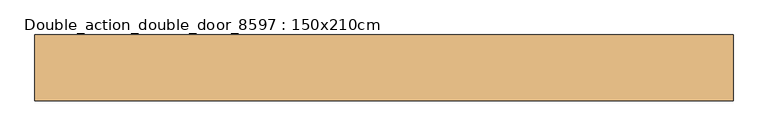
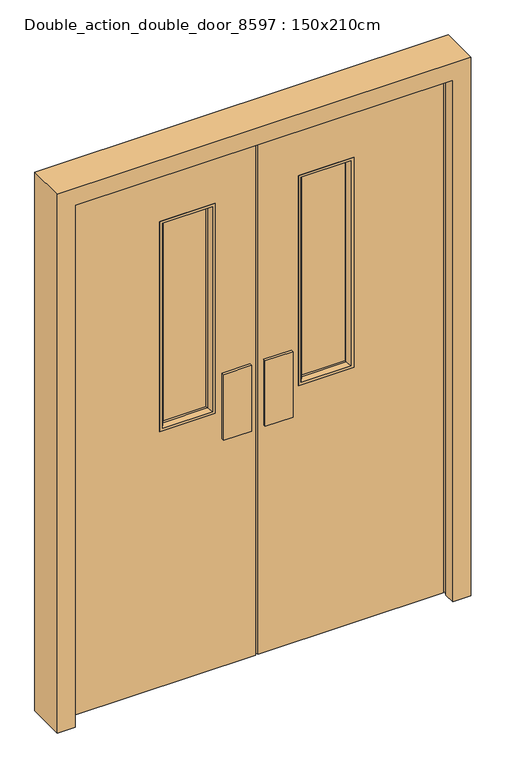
"""IFC4 building model written with IfcOpenShell, lengths in millimetres: door geometry, Double_action_double_door_8597 : 150x210cm."""

import ifcopenshell
import ifcopenshell.guid

model = None  # the IFC model being written
_history = None  # IfcOwnerHistory: only IFC2X3 demands one
_inside = {}  # id of a spatial element -> (the spatial element, [elements in it])
_under = {}  # id of a project, library or spatial element -> (it, [spatial elements below it])
_declared = {}  # id of a project -> (the project, [libraries it declares])
_typed = {}  # id of a type object -> (the type object, [elements of that type])
_made_of = {}  # id of a material, layer set ... -> (it, [elements and type objects made of it])


def new_model(schema):
    """Start an empty IFC model of exactly this schema.

    Asked for "IFC4X3", IfcOpenShell would pick the latest addendum, in which some entities
    have other attributes; the version numbers below select the first issue.
    IFC2X3 requires an IfcOwnerHistory on every rooted entity: one is made here for all.
    """
    global model, _history
    if schema == "IFC4X3":
        model = ifcopenshell.file(schema_version=(4, 3, 0, 0))
    else:
        model = ifcopenshell.file(schema=schema)
    _inside.clear()
    _under.clear()
    _declared.clear()
    _typed.clear()
    _made_of.clear()
    _history = None
    if model.schema == "IFC2X3":
        org = make("IfcOrganization", Name="unknown")
        user = make(
            "IfcPersonAndOrganization",
            ThePerson=make("IfcPerson", FamilyName="unknown"),
            TheOrganization=org,
        )
        app = make(
            "IfcApplication",
            ApplicationDeveloper=org,
            Version="unknown",
            ApplicationFullName="unknown",
            ApplicationIdentifier="unknown",
        )
        _history = make(
            "IfcOwnerHistory",
            OwningUser=user,
            OwningApplication=app,
            ChangeAction="ADDED",
            CreationDate=0,
        )
    return model


def make(cls, **values):
    """One entity of the class cls with the attributes given. An attribute that is None is left unset."""
    return model.create_entity(
        cls, **{name: value for name, value in values.items() if value is not None}
    )


def rooted(cls, **values):
    """An entity with a GlobalId (a new one), such as an element, a storey or a relation."""
    return make(cls, GlobalId=ifcopenshell.guid.new(), OwnerHistory=_history, **values)


def si_unit(unit_type, name, prefix=None):
    """IfcSIUnit, for example si_unit("LENGTHUNIT", "METRE", prefix="MILLI")."""
    return make("IfcSIUnit", UnitType=unit_type, Prefix=prefix, Name=name)


def assignment(units):
    """IfcUnitAssignment: the units of a project."""
    return None if units is None else make("IfcUnitAssignment", Units=units)


def point(xyz):
    """IfcCartesianPoint."""
    return None if xyz is None else make("IfcCartesianPoint", Coordinates=xyz)


def direction(xyz):
    """IfcDirection."""
    return None if xyz is None else make("IfcDirection", DirectionRatios=xyz)


def frame(location, z_axis=None, x_axis=None):
    """IfcAxis2Placement3D, a coordinate frame: its origin and axes. An axis left out is left unset."""
    return make(
        "IfcAxis2Placement3D",
        Location=point(location),
        Axis=direction(z_axis),
        RefDirection=direction(x_axis),
    )


def origin():
    """The frame at (0, 0, 0) with its axes left unset."""
    return frame((0.0, 0.0, 0.0))


def place(relative_to, where):
    """IfcLocalPlacement: puts the frame where relative to a parent placement (None: the world)."""
    return make(
        "IfcLocalPlacement", PlacementRelTo=relative_to, RelativePlacement=where
    )


def context(
    kind, dimensions, precision=None, world=None, true_north=None, identifier=None
):
    """IfcGeometricRepresentationContext, for example the 3D "Model" context."""
    return make(
        "IfcGeometricRepresentationContext",
        ContextIdentifier=identifier,
        ContextType=kind,
        CoordinateSpaceDimension=dimensions,
        Precision=precision,
        WorldCoordinateSystem=world,
        TrueNorth=true_north,
    )


def project(units=None, contexts=None):
    """IfcProject with its units and contexts."""
    return rooted(
        "IfcProject",
        Name="project",
        RepresentationContexts=contexts,
        UnitsInContext=assignment(units),
    )


def spatial(cls, under=None, at=None, **own):
    """A site, building, storey or space (cls), placed at a placement, below another one or the project."""
    s = rooted(cls, ObjectPlacement=at, **own)
    if under is not None:
        _under.setdefault(under.id(), (under, []))[1].append(s)
    return s


def polyline(points):
    """IfcPolyline through the points."""
    return make("IfcPolyline", Points=[point(p) for p in points])


def circle_curve(where, radius):
    """IfcCircle in the frame where."""
    return make("IfcCircle", Position=where, Radius=radius)


def outline(outer, holes=None, kind="AREA"):
    """IfcArbitraryClosedProfileDef: a profile drawn as a closed curve; with holes, ...WithVoids."""
    if holes is None:
        return make("IfcArbitraryClosedProfileDef", ProfileType=kind, OuterCurve=outer)
    return make(
        "IfcArbitraryProfileDefWithVoids",
        ProfileType=kind,
        OuterCurve=outer,
        InnerCurves=holes,
    )


def extrude(swept, where, along, depth):
    """IfcExtrudedAreaSolid: the profile swept, set in the frame where, extruded along a direction by depth."""
    return make(
        "IfcExtrudedAreaSolid",
        SweptArea=swept,
        Position=where,
        ExtrudedDirection=direction(along),
        Depth=depth,
    )


def faces_of(points, faces, orient=None, outer=None):
    """IfcFace entities. A face is a list of loops; a loop is a list of indices into points, from 0.

    orient and outer hold one flag for each loop. By default every Orientation is true, the
    first loop of a face is its IfcFaceOuterBound and the others are IfcFaceBound.
    """
    made = []
    for i, loops in enumerate(faces):
        bounds = []
        for j, loop in enumerate(loops):
            is_outer = j == 0 if outer is None else outer[i][j]
            bounds.append(
                make(
                    "IfcFaceOuterBound" if is_outer else "IfcFaceBound",
                    Bound=make("IfcPolyLoop", Polygon=[points[k] for k in loop]),
                    Orientation=True if orient is None else orient[i][j],
                )
            )
        made.append(make("IfcFace", Bounds=bounds))
    return made


def faceted_brep(points, faces, orient=None, outer=None, voids=None):
    """IfcFacetedBrep: a solid bounded by flat faces; with voids (closed shells), ...WithVoids."""
    shared = [point(p) for p in points]
    hull = make("IfcClosedShell", CfsFaces=faces_of(shared, faces, orient, outer))
    if voids is None:
        return make("IfcFacetedBrep", Outer=hull)
    return make(
        "IfcFacetedBrepWithVoids",
        Outer=hull,
        Voids=[
            make(cls, CfsFaces=faces_of(shared, fs, o, b)) for cls, fs, o, b in voids
        ],
    )


def shape(context_of_items, identifier, shape_type, items):
    """IfcShapeRepresentation: the items that make up one representation, for example the "Body"."""
    return make(
        "IfcShapeRepresentation",
        ContextOfItems=context_of_items,
        RepresentationIdentifier=identifier,
        RepresentationType=shape_type,
        Items=items,
    )


def source(mapping_origin, context_of_items, identifier, shape_type, items):
    """IfcRepresentationMap: a shape defined once, which mapped items show again and again."""
    return make(
        "IfcRepresentationMap",
        MappingOrigin=mapping_origin,
        MappedRepresentation=shape(context_of_items, identifier, shape_type, items),
    )


def transform(
    local_origin,
    x_axis=None,
    y_axis=None,
    z_axis=None,
    scale=None,
    scale2=None,
    scale3=None,
    uniform=True,
):
    """IfcCartesianTransformationOperator3D, or its non-uniform kind. x_axis, y_axis, z_axis: its Axis1, 2, 3."""
    if uniform:
        return make(
            "IfcCartesianTransformationOperator3D",
            Axis1=direction(x_axis),
            Axis2=direction(y_axis),
            LocalOrigin=point(local_origin),
            Scale=scale,
            Axis3=direction(z_axis),
        )
    return make(
        "IfcCartesianTransformationOperator3DnonUniform",
        Axis1=direction(x_axis),
        Axis2=direction(y_axis),
        LocalOrigin=point(local_origin),
        Scale=scale,
        Axis3=direction(z_axis),
        Scale2=scale2,
        Scale3=scale3,
    )


def mapped(mapping_source, mapping_target):
    """IfcMappedItem: shows the shape of a source again, moved by a transform."""
    return make(
        "IfcMappedItem", MappingSource=mapping_source, MappingTarget=mapping_target
    )


def made_of(thing, what):
    """Note that an element or type object is made of a material, layer set ...; save() writes the relation."""
    if what is not None:
        _made_of.setdefault(what.id(), (what, []))[1].append(thing)
    return thing


def element(
    cls,
    number,
    at=None,
    inside=None,
    cuts=None,
    type_object=None,
    material=None,
    context=None,
    identifier="Body",
    shape_type=None,
    held_by="IfcProductDefinitionShape",
    body=None,
    shapes=None,
    **own,
):
    """One element of the class cls, such as IfcWall. Its Tag is "e" and its number.

    at: its placement. inside: the storey or other place that contains it. cuts: it is an
    opening in that element (IfcRelVoidsElement). A single representation is given by context,
    identifier, shape_type and body (its items); several are given by shapes. held_by: the class
    of the entity that holds the representations. save() writes the other relations.
    """
    e = rooted(cls, Tag="e%d" % number, ObjectPlacement=at, **own)
    if body is not None:
        shapes = [shape(context, identifier, shape_type, body)]
    if shapes is not None:
        e.Representation = make(held_by, Representations=shapes)
    if inside is not None:
        _inside.setdefault(inside.id(), (inside, []))[1].append(e)
    if cuts is not None:
        rooted(
            "IfcRelVoidsElement", RelatingBuildingElement=cuts, RelatedOpeningElement=e
        )
    if type_object is not None:
        _typed.setdefault(type_object.id(), (type_object, []))[1].append(e)
    return made_of(e, material)


def aggregate(whole, parts):
    """IfcRelAggregates: a whole, such as a stair, and the parts it consists of."""
    return rooted("IfcRelAggregates", RelatingObject=whole, RelatedObjects=parts)


def save(model, path):
    """Write the relations noted so far, then the file.

    IfcRelAggregates (storeys below a building ...), IfcRelContainedInSpatialStructure (elements
    in a storey), IfcRelDefinesByType, IfcRelAssociatesMaterial and IfcRelDeclares: one each for
    every whole, place, type object, material and project.
    """
    for whole, parts in _under.values():
        aggregate(whole, parts)
    for where, things in _inside.values():
        rooted(
            "IfcRelContainedInSpatialStructure",
            RelatedElements=things,
            RelatingStructure=where,
        )
    for kind, things in _typed.values():
        rooted("IfcRelDefinesByType", RelatedObjects=things, RelatingType=kind)
    for what, things in _made_of.values():
        rooted("IfcRelAssociatesMaterial", RelatedObjects=things, RelatingMaterial=what)
    for by, libraries in _declared.values():
        rooted("IfcRelDeclares", RelatingContext=by, RelatedDefinitions=libraries)
    model.write(path)


def plane_surface(at):
    """IfcPlane: the flat surface through the origin of the frame at, square to its z axis."""
    return make("IfcPlane", Position=at)


def cylinder_surface(at, radius):
    """IfcCylindricalSurface: all points at the distance radius from the z axis of the frame at."""
    return make("IfcCylindricalSurface", Position=at, Radius=radius)


def advanced_brep(points, edges, surfaces, faces):
    """IfcAdvancedBrep: a solid bounded by faces that lie on surfaces and meet in shared edges.

    An edge is (start, end): straight between two places in points (the first is 0);
    or (start, end, curve); or (start, end, curve, False) where it runs against its curve.
    A face is (place in surfaces, loops), or (place, loops, False) where it looks against
    its surface's normal. A loop lists edges by number (the first is 1), with a minus sign
    where the edge is run from its end to its start. The first loop is the outer one.
    """
    corners = [point(p) for p in points]
    vertices = [make("IfcVertexPoint", VertexGeometry=c) for c in corners]
    made = []
    for start, end, *more in edges:
        made.append(
            make(
                "IfcEdgeCurve",
                EdgeStart=vertices[start],
                EdgeEnd=vertices[end],
                EdgeGeometry=more[0] if more else make("IfcPolyline", Points=[corners[start], corners[end]]),
                SameSense=more[1] if len(more) > 1 else True,
            )
        )
    hull = []
    for where, loops, *sense in faces:
        bounds = []
        for j, loop in enumerate(loops):
            ring = [make("IfcOrientedEdge", EdgeElement=made[abs(k) - 1], Orientation=k > 0) for k in loop]
            bounds.append(
                make(
                    "IfcFaceOuterBound" if j == 0 else "IfcFaceBound",
                    Bound=make("IfcEdgeLoop", EdgeList=ring),
                    Orientation=True,
                )
            )
        hull.append(make("IfcAdvancedFace", Bounds=bounds, FaceSurface=surfaces[where], SameSense=sense[0] if sense else True))
    return make("IfcAdvancedBrep", Outer=make("IfcClosedShell", CfsFaces=hull))


def double_action_double_door_8597_150x210cm_23852583(model_context):
    return source(origin(), model_context, "Body", "SolidModel", [
        extrude(outline(polyline([(-125.0, -24.0), (-25.0, -24.0), (-25.0, -33.5143417), (-125.0, -33.5143417), (-125.0, -24.0)])), frame((0.0, 0.0, 875.0), z_axis=(0.0, 0.0, 1.0), x_axis=(1.0, 0.0, 0.0)), (0.0, 0.0, 1.0), 250.0),
        extrude(outline(polyline([(25.0, -33.5143417), (25.0, -24.0), (125.0, -24.0), (125.0, -33.5143417), (25.0, -33.5143417)])), frame((0.0, 0.0, 875.0), z_axis=(0.0, 0.0, 1.0), x_axis=(1.0, 0.0, 0.0)), (0.0, 0.0, 1.0), 250.0),
        extrude(outline(polyline([(-125.0, 24.0), (-125.0, 33.5143417), (-25.0, 33.5143417), (-25.0, 24.0), (-125.0, 24.0)])), frame((0.0, 0.0, 875.0), z_axis=(0.0, 0.0, 1.0), x_axis=(1.0, 0.0, 0.0)), (0.0, 0.0, 1.0), 250.0),
        extrude(outline(polyline([(25.0, 33.5143417), (125.0, 33.5143417), (125.0, 24.0), (25.0, 24.0), (25.0, 33.5143417)])), frame((0.0, 0.0, 875.0), z_axis=(0.0, 0.0, 1.0), x_axis=(1.0, 0.0, 0.0)), (0.0, 0.0, 1.0), 250.0),
        faceted_brep([(745.0, -70.0, 0.0), (680.0, -70.0, 0.0), (680.0, -27.5, 0.0), (685.0, -15.0, 0.0), (685.0, 15.0, 0.0), (680.0, 27.5, 0.0), (680.0, 70.0, 0.0), (745.0, 70.0, 0.0), (745.0, -70.0, 2050.0), (-745.0, -70.0, 2050.0), (-745.0, -70.0, 0.0), (-680.0, -70.0, 0.0), (-680.0, -70.0, 1985.0), (680.0, -70.0, 1985.0), (680.0, -27.5, 1985.0), (685.0, -15.0, 1990.0), (685.0, 15.0, 1990.0), (680.0, 27.5, 1985.0), (680.0, 70.0, 1985.0), (-680.0, 70.0, 1985.0), (-680.0, 70.0, 0.0), (-745.0, 70.0, 0.0), (-745.0, 70.0, 2050.0), (745.0, 70.0, 2050.0), (-680.0, 27.5, 0.0), (-685.0, 15.0, 0.0), (-685.0, -15.0, 0.0), (-680.0, -27.5, 0.0), (-680.0, -27.5, 1985.0), (-680.0, 27.5, 1985.0), (-685.0, 15.0, 1990.0), (-685.0, -15.0, 1990.0)], [[[0, 1, 2, 3, 4, 5, 6, 7]], [[1, 0, 8, 9, 10, 11, 12, 13]], [[2, 1, 13, 14]], [[3, 2, 14, 15]], [[4, 3, 15, 16]], [[5, 4, 16, 17]], [[6, 5, 17, 18]], [[7, 6, 18, 19, 20, 21, 22, 23]], [[0, 7, 23, 8]], [[10, 9, 22, 21]], [[11, 10, 21, 20, 24, 25, 26, 27]], [[12, 11, 27, 28]], [[20, 19, 29, 24]], [[29, 30, 25, 24]], [[30, 31, 26, 25]], [[31, 28, 27, 26]], [[13, 12, 28, 14]], [[15, 14, 28, 31]], [[16, 15, 31, 30]], [[17, 16, 30, 29]], [[18, 17, 29, 19]], [[9, 8, 23, 22]]]),
        extrude(outline(polyline([(170.0, 2.5), (330.0, 2.5), (330.0, -2.5), (170.0, -2.5), (170.0, 2.5)])), frame((0.0, 0.0, 1000.0), z_axis=(0.0, 0.0, 1.0), x_axis=(1.0, 0.0, 0.0)), (0.0, 0.0, 1.0), 760.0),
        faceted_brep([(170.0, 10.0, 1760.0), (160.0, 24.0, 1770.0), (340.0, 24.0, 1770.0), (330.0, 10.0, 1760.0), (170.0, -10.0, 1760.0), (330.0, -10.0, 1760.0), (160.0, -24.0, 1770.0), (340.0, -24.0, 1770.0), (150.0, 24.0, 1780.0), (150.0, -24.0, 1780.0), (350.0, -24.0, 1780.0), (350.0, 24.0, 1780.0), (340.0, 24.0, 990.0), (330.0, 10.0, 1000.0), (330.0, -10.0, 1000.0), (340.0, -24.0, 990.0), (350.0, -24.0, 980.0), (350.0, 24.0, 980.0), (160.0, 24.0, 990.0), (170.0, 10.0, 1000.0), (170.0, -10.0, 1000.0), (160.0, -24.0, 990.0), (150.0, -24.0, 980.0), (150.0, 24.0, 980.0)], [[[0, 1, 2, 3]], [[4, 0, 3, 5]], [[6, 4, 5, 7]], [[8, 9, 10, 11]], [[3, 2, 12, 13]], [[5, 3, 13, 14]], [[7, 5, 14, 15]], [[11, 10, 16, 17]], [[13, 12, 18, 19]], [[14, 13, 19, 20]], [[15, 14, 20, 21]], [[17, 16, 22, 23]], [[11, 17, 23, 8], [1, 18, 12, 2]], [[19, 18, 1, 0]], [[20, 19, 0, 4]], [[21, 20, 4, 6]], [[9, 22, 16, 10], [7, 15, 21, 6]], [[23, 22, 9, 8]]]),
        faceted_brep([(-150.0, -24.0, 1780.0), (-150.0, 24.0, 1780.0), (-350.0, 24.0, 1780.0), (-350.0, -24.0, 1780.0), (-170.0, -10.0, 1760.0), (-160.0, -24.0, 1770.0), (-340.0, -24.0, 1770.0), (-330.0, -10.0, 1760.0), (-170.0, 10.0, 1760.0), (-330.0, 10.0, 1760.0), (-160.0, 24.0, 1770.0), (-340.0, 24.0, 1770.0), (-350.0, 24.0, 980.0), (-350.0, -24.0, 980.0), (-340.0, -24.0, 990.0), (-330.0, -10.0, 1000.0), (-330.0, 10.0, 1000.0), (-340.0, 24.0, 990.0), (-150.0, 24.0, 980.0), (-150.0, -24.0, 980.0), (-160.0, -24.0, 990.0), (-170.0, -10.0, 1000.0), (-170.0, 10.0, 1000.0), (-160.0, 24.0, 990.0)], [[[0, 1, 2, 3]], [[4, 5, 6, 7]], [[8, 4, 7, 9]], [[10, 8, 9, 11]], [[3, 2, 12, 13]], [[7, 6, 14, 15]], [[9, 7, 15, 16]], [[11, 9, 16, 17]], [[13, 12, 18, 19]], [[15, 14, 20, 21]], [[16, 15, 21, 22]], [[17, 16, 22, 23]], [[19, 18, 1, 0]], [[3, 13, 19, 0], [5, 20, 14, 6]], [[21, 20, 5, 4]], [[22, 21, 4, 8]], [[23, 22, 8, 10]], [[1, 18, 12, 2], [11, 17, 23, 10]]]),
        extrude(outline(polyline([(-330.0, 2.5), (-170.0, 2.5), (-170.0, -2.5), (-330.0, -2.5), (-330.0, 2.5)])), frame((0.0, 0.0, 1000.0), z_axis=(0.0, 0.0, 1.0), x_axis=(1.0, 0.0, 0.0)), (0.0, 0.0, 1.0), 760.0),
        advanced_brep(
        [(-5.0083478, -24.0, 1990.0), (-5.0083478, 24.0, 1990.0), (-673.0, 24.0, 1990.0), (-673.0, -24.0, 1990.0), (-5.0083478, -24.0, 10.0), (-673.0, -24.0, 10.0), (-673.0, 24.0, 10.0), (-5.0083478, 24.0, 10.0), (-150.0, 24.0, 1780.0), (-350.0, 24.0, 1780.0), (-350.0, 24.0, 980.0), (-150.0, 24.0, 980.0), (-350.0, -24.0, 1780.0), (-150.0, -24.0, 1780.0), (-150.0, -24.0, 980.0), (-350.0, -24.0, 980.0)],
        [
            (0, 1, circle_curve(frame((-60.1083478, 0.0, 1990.0), z_axis=(0.0, 0.0, 1.0), x_axis=(1.0, 0.0, 0.0)), 60.1)),
            (1, 2),
            (2, 3, circle_curve(frame((-617.9, 0.0, 1990.0), z_axis=(0.0, 0.0, 1.0), x_axis=(1.0, 0.0, 0.0)), 60.1)),
            (3, 0),
            (4, 5),
            (5, 6, circle_curve(frame((-617.9, 0.0, 10.0), z_axis=(0.0, 0.0, -1.0), x_axis=(1.0, 0.0, 0.0)), 60.1)),
            (6, 7),
            (7, 4, circle_curve(frame((-60.1083478, 0.0, 10.0), z_axis=(0.0, 0.0, -1.0), x_axis=(1.0, 0.0, 0.0)), 60.1)),
            (0, 4),
            (7, 1),
            (6, 2),
            (8, 9),
            (9, 10),
            (10, 11),
            (11, 8),
            (5, 3),
            (12, 13),
            (13, 14),
            (14, 15),
            (15, 12),
            (11, 14),
            (13, 8),
            (10, 15),
            (9, 12),
        ],
        [
            plane_surface(frame((-0.0083478, 0.0, 1990.0), z_axis=(0.0, 0.0, 1.0), x_axis=(0.0, 1.0, 0.0))),
            plane_surface(frame((-0.0083478, 0.0, 10.0), z_axis=(0.0, 0.0, -1.0), x_axis=(0.0, -1.0, 0.0))),
            cylinder_surface(frame((-60.1083478, 0.0, 10.0), z_axis=(0.0, 0.0, 1.0), x_axis=(1.0, 0.0, 0.0)), 60.1),
            plane_surface(frame((-5.0083478, 24.0, 1990.0), z_axis=(0.0, 1.0, 0.0), x_axis=(0.0, 0.0, -1.0))),
            cylinder_surface(frame((-617.9, 0.0, 10.0), z_axis=(0.0, 0.0, 1.0), x_axis=(1.0, 0.0, 0.0)), 60.1),
            plane_surface(frame((-673.0, -24.0, 1990.0), z_axis=(0.0, -1.0, 0.0), x_axis=(0.0, 0.0, -1.0))),
            plane_surface(frame((-150.0, 65.0, 1780.0), z_axis=(-1.0, 0.0, 0.0), x_axis=(0.0, -1.0, 0.0))),
            plane_surface(frame((-150.0, 65.0, 980.0), z_axis=(0.0, 0.0, 1.0), x_axis=(0.0, -1.0, 0.0))),
            plane_surface(frame((-350.0, 65.0, 980.0), z_axis=(1.0, 0.0, 0.0), x_axis=(0.0, -1.0, 0.0))),
            plane_surface(frame((-350.0, 65.0, 1780.0), z_axis=(0.0, 0.0, -1.0), x_axis=(0.0, -1.0, 0.0))),
        ],
        [
            (0, [[1, 2, 3, 4]]),
            (1, [[5, 6, 7, 8]]),
            (2, [[-1, 9, -8, 10]]),
            (3, [[-2, -10, -7, 11], [12, 13, 14, 15]]),
            (4, [[-3, -11, -6, 16]]),
            (5, [[-4, -16, -5, -9], [17, 18, 19, 20]]),
            (6, [[21, -18, 22, -15]]),
            (7, [[23, -19, -21, -14]]),
            (8, [[24, -20, -23, -13]]),
            (9, [[-24, -12, -22, -17]]),
        ],
    ),
        advanced_brep(
        [(5.0083478, -24.0, 1990.0), (673.0, -24.0, 1990.0), (673.0, 24.0, 1990.0), (5.0083478, 24.0, 1990.0), (5.0083478, -24.0, 10.0), (5.0083478, 24.0, 10.0), (673.0, 24.0, 10.0), (673.0, -24.0, 10.0), (150.0, -24.0, 1780.0), (350.0, -24.0, 1780.0), (350.0, -24.0, 980.0), (150.0, -24.0, 980.0), (350.0, 24.0, 1780.0), (150.0, 24.0, 1780.0), (150.0, 24.0, 980.0), (350.0, 24.0, 980.0)],
        [
            (0, 1),
            (1, 2, circle_curve(frame((617.9, 0.0, 1990.0), z_axis=(0.0, 0.0, 1.0), x_axis=(-1.0, 0.0, 0.0)), 60.1)),
            (2, 3),
            (3, 0, circle_curve(frame((60.1083478, 0.0, 1990.0), z_axis=(0.0, 0.0, 1.0), x_axis=(-1.0, 0.0, 0.0)), 60.1)),
            (4, 5, circle_curve(frame((60.1083478, 0.0, 10.0), z_axis=(0.0, 0.0, -1.0), x_axis=(-1.0, 0.0, 0.0)), 60.1)),
            (5, 6),
            (6, 7, circle_curve(frame((617.9, 0.0, 10.0), z_axis=(0.0, 0.0, -1.0), x_axis=(-1.0, 0.0, 0.0)), 60.1)),
            (7, 4),
            (0, 4),
            (7, 1),
            (8, 9),
            (9, 10),
            (10, 11),
            (11, 8),
            (6, 2),
            (5, 3),
            (12, 13),
            (13, 14),
            (14, 15),
            (15, 12),
            (15, 10),
            (9, 12),
            (14, 11),
            (13, 8),
        ],
        [
            plane_surface(frame((673.0, -24.0, 1990.0), z_axis=(0.0, 0.0, 1.0), x_axis=(1.0, 0.0, 0.0))),
            plane_surface(frame((673.0, -24.0, 10.0), z_axis=(0.0, 0.0, -1.0), x_axis=(-1.0, 0.0, 0.0))),
            plane_surface(frame((5.0083478, -24.0, 1990.0), z_axis=(0.0, -1.0, 0.0), x_axis=(0.0, 0.0, -1.0))),
            cylinder_surface(frame((617.9, 0.0, 10.0), z_axis=(0.0, 0.0, 1.0), x_axis=(-1.0, 0.0, 0.0)), 60.1),
            plane_surface(frame((673.0, 24.0, 1990.0), z_axis=(0.0, 1.0, 0.0), x_axis=(0.0, 0.0, -1.0))),
            cylinder_surface(frame((60.1083478, 0.0, 10.0), z_axis=(0.0, 0.0, 1.0), x_axis=(-1.0, 0.0, 0.0)), 60.1),
            plane_surface(frame((350.0, 65.0, 1780.0), z_axis=(-1.0, 0.0, 0.0), x_axis=(0.0, -1.0, 0.0))),
            plane_surface(frame((350.0, 65.0, 980.0), z_axis=(0.0, 0.0, 1.0), x_axis=(0.0, -1.0, 0.0))),
            plane_surface(frame((150.0, 65.0, 980.0), z_axis=(1.0, 0.0, 0.0), x_axis=(0.0, -1.0, 0.0))),
            plane_surface(frame((150.0, 65.0, 1780.0), z_axis=(0.0, 0.0, -1.0), x_axis=(0.0, -1.0, 0.0))),
        ],
        [
            (0, [[1, 2, 3, 4]]),
            (1, [[5, 6, 7, 8]]),
            (2, [[-1, 9, -8, 10], [11, 12, 13, 14]]),
            (3, [[-2, -10, -7, 15]]),
            (4, [[-3, -15, -6, 16], [17, 18, 19, 20]]),
            (5, [[-4, -16, -5, -9]]),
            (6, [[21, -12, 22, -20]]),
            (7, [[23, -13, -21, -19]]),
            (8, [[24, -14, -23, -18]]),
            (9, [[-24, -17, -22, -11]]),
        ],
    ),
    ])


if __name__ == "__main__":
    model = new_model("IFC4")
    model_context = context("Model", 3, world=origin())
    ifc_project = project(units=[si_unit("LENGTHUNIT", "METRE", prefix="MILLI")], contexts=[model_context])
    site = spatial("IfcSite", under=ifc_project)
    building = spatial("IfcBuilding", under=site)
    placement = place(None, origin())
    double_action_double_door_8597_150x210cm_shape = double_action_double_door_8597_150x210cm_23852583(model_context)
    element("IfcDoor", 1, ObjectType="Double_action_double_door_8597 : 150x210cm", at=placement, inside=building, context=model_context, shape_type="MappedRepresentation", body=[
        mapped(double_action_double_door_8597_150x210cm_shape, transform((0.0, 0.0, 0.0), x_axis=(1.0, 0.0, 0.0), y_axis=(0.0, 1.0, 0.0), z_axis=(0.0, 0.0, 1.0))),
    ])
    save(model, "model.ifc")
